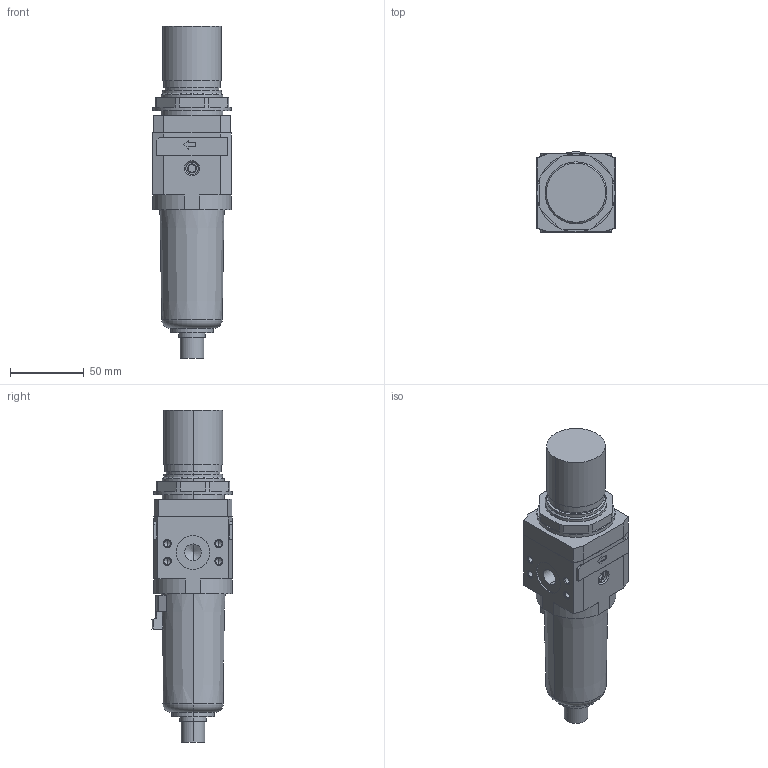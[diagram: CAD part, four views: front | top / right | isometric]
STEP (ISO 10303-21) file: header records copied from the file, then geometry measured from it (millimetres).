
FILE_DESCRIPTION((''),'2;1');
FILE_NAME('I:\DOC-EDP\Lib-3d\FRL\17204A_.stp','2003-06-16T14:54:55',('maffial1'),(''),'Autodesk Inventor 7','Autodesk Inventor 7','');
FILE_SCHEMA(('AUTOMOTIVE_DESIGN { 1 0 10303 214 1 1 1 1 }'));
Length unit declared in the file: millimetre
Products named in the file (4): 17204A_; 17204A_(1); RS_1702_12; RK_1701_020
Assembly tree (3 placements, depth 2):
  17204A_
    17204A_(1)
    RS_1702_12
    RK_1701_020
Bounding box: 53 x 54.39 x 225 mm (x, y, z)
Volume: 365982.7 mm3; surface area: 51941.1 mm2
Topology: 3 solids, 5 shells, 252 faces, 609 edges, 375 vertices
Faces by surface type: bspline 96, plane 95, cylinder 40, cone 15, torus 6
Entity records: 8188 total; most frequent: CARTESIAN_POINT 2539, ORIENTED_EDGE 1170, DIRECTION 1104, EDGE_CURVE 585, VERTEX_POINT 375, AXIS2_PLACEMENT_3D 368, VECTOR 368, LINE 368
